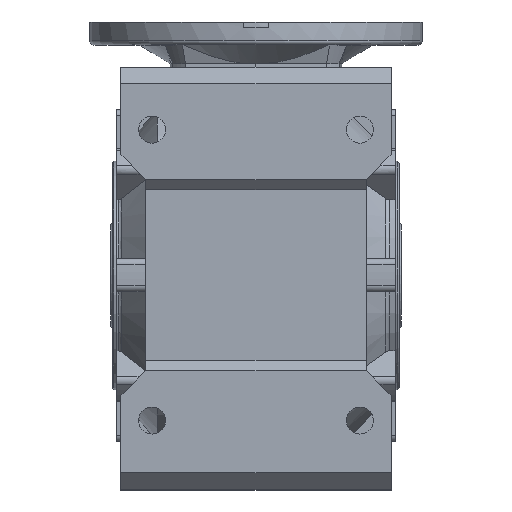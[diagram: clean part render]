
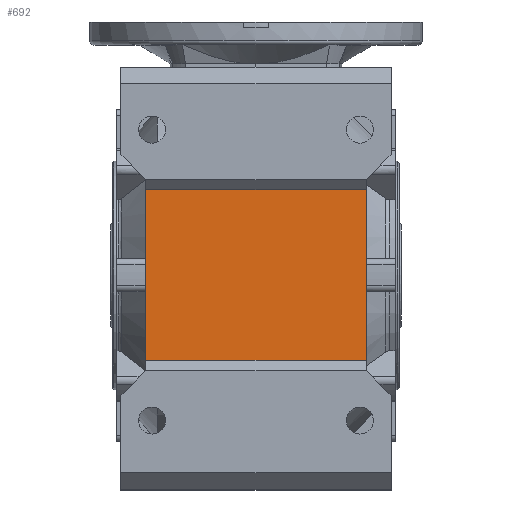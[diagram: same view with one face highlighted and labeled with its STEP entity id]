
A CAD part, top view. The second image highlights one B-rep face of the part: STEP entity #692.
In plain terms, the highlighted planar face has unit normal (0, 0, 1).
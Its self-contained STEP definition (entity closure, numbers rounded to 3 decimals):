
#692 = ADVANCED_FACE( '', ( #2012 ), #2013, .T. );
#2012 = FACE_OUTER_BOUND( '', #4158, .T. );
#2013 = PLANE( '', #4159 );
#4158 = EDGE_LOOP( '', ( #6362, #6363, #6364, #6365 ) );
#4159 = AXIS2_PLACEMENT_3D( '', #6366, #6367, #6368 );
#6362 = ORIENTED_EDGE( '', *, *, #11948, .T. );
#6363 = ORIENTED_EDGE( '', *, *, #11949, .F. );
#6364 = ORIENTED_EDGE( '', *, *, #11950, .F. );
#6365 = ORIENTED_EDGE( '', *, *, #11951, .T. );
#6366 = CARTESIAN_POINT( '', ( -281.21, -131., -2. ) );
#6367 = DIRECTION( '', ( 0., 0., 1. ) );
#6368 = DIRECTION( '', ( -1., 0., 0. ) );
#11948 = EDGE_CURVE( '', #14182, #14183, #14184, .T. );
#11949 = EDGE_CURVE( '', #14185, #14183, #14186, .T. );
#11950 = EDGE_CURVE( '', #14187, #14185, #14188, .T. );
#11951 = EDGE_CURVE( '', #14187, #14182, #14189, .T. );
#14182 = VERTEX_POINT( '', #17406 );
#14183 = VERTEX_POINT( '', #17407 );
#14184 = LINE( '', #17408, #17409 );
#14185 = VERTEX_POINT( '', #17410 );
#14186 = LINE( '', #17411, #17412 );
#14187 = VERTEX_POINT( '', #17413 );
#14188 = LINE( '', #17414, #17415 );
#14189 = LINE( '', #17416, #17417 );
#17406 = CARTESIAN_POINT( '', ( -53., -131., -2. ) );
#17407 = CARTESIAN_POINT( '', ( 53., -131., -2. ) );
#17408 = CARTESIAN_POINT( '', ( -281.21, -131., -2. ) );
#17409 = VECTOR( '', #22453, 1000. );
#17410 = CARTESIAN_POINT( '', ( 53., -49., -2. ) );
#17411 = CARTESIAN_POINT( '', ( 53., -136., -2. ) );
#17412 = VECTOR( '', #22454, 1000. );
#17413 = CARTESIAN_POINT( '', ( -53., -49., -2. ) );
#17414 = CARTESIAN_POINT( '', ( -281.21, -49., -2. ) );
#17415 = VECTOR( '', #22455, 1000. );
#17416 = CARTESIAN_POINT( '', ( -53., -136., -2. ) );
#17417 = VECTOR( '', #22456, 1000. );
#22453 = DIRECTION( '', ( 1., 0., 0. ) );
#22454 = DIRECTION( '', ( 0., -1., 0. ) );
#22455 = DIRECTION( '', ( 1., 0., 0. ) );
#22456 = DIRECTION( '', ( 0., -1., 0. ) );
